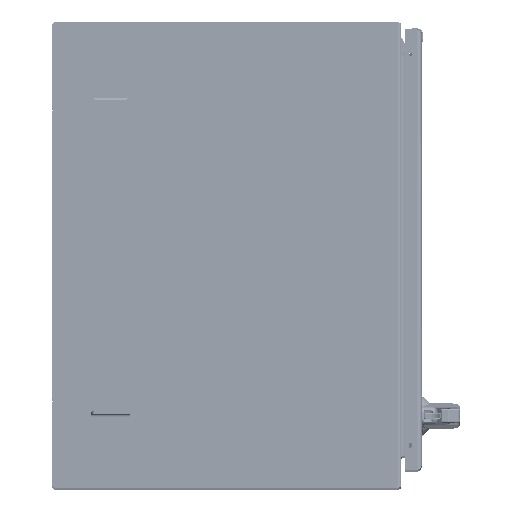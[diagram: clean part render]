
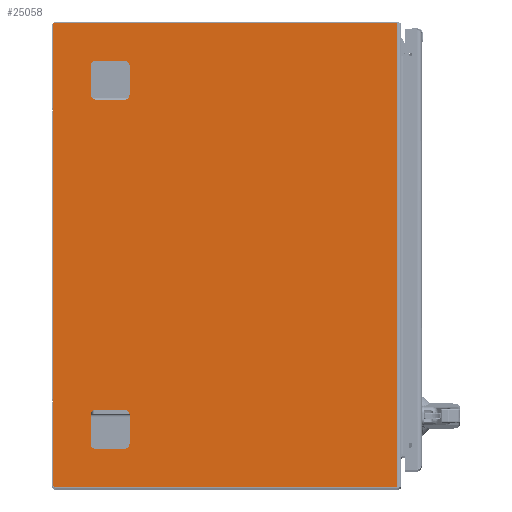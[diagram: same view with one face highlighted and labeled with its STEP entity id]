
A CAD part, top view. The second image highlights one B-rep face of the part: STEP entity #25058.
In plain terms, the highlighted planar face has unit normal (0, 0, 1) as drawn and (0, 1, 0) by its records, which use the part's own axes.
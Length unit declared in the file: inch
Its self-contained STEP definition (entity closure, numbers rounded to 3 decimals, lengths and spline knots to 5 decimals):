
#23817=CARTESIAN_POINT('',(-17.888,0.,-11.888));
#23818=DIRECTION('',(0.,1.,0.));
#23819=DIRECTION('',(0.,0.,-1.));
#23820=AXIS2_PLACEMENT_3D('',#23817,#23818,#23819);
#23825=CARTESIAN_POINT('',(-17.888,0.,11.888));
#23826=DIRECTION('',(0.,1.,0.));
#23827=DIRECTION('',(-1.,0.,0.));
#23828=AXIS2_PLACEMENT_3D('',#23825,#23826,#23827);
#23833=DIRECTION('',(0.,0.,1.));
#23834=VECTOR('',#23833,1.5);
#23835=CARTESIAN_POINT('',(-14.,0.,-9.75));
#23836=LINE('',#23835,#23834);
#23840=CARTESIAN_POINT('',(-14.25,0.,-9.75));
#23841=DIRECTION('',(0.,1.,0.));
#23842=DIRECTION('',(1.,0.,0.));
#23843=AXIS2_PLACEMENT_3D('',#23840,#23841,#23842);
#23848=DIRECTION('',(1.,0.,0.));
#23849=VECTOR('',#23848,1.5);
#23850=CARTESIAN_POINT('',(-15.75,0.,-10.));
#23851=LINE('',#23850,#23849);
#23855=CARTESIAN_POINT('',(-15.75,0.,-9.75));
#23856=DIRECTION('',(0.,1.,0.));
#23857=DIRECTION('',(0.,0.,-1.));
#23858=AXIS2_PLACEMENT_3D('',#23855,#23856,#23857);
#23863=DIRECTION('',(0.,0.,-1.));
#23864=VECTOR('',#23863,1.5);
#23865=CARTESIAN_POINT('',(-16.,0.,-8.25));
#23866=LINE('',#23865,#23864);
#23870=CARTESIAN_POINT('',(-15.75,0.,-8.25));
#23871=DIRECTION('',(0.,1.,0.));
#23872=DIRECTION('',(-1.,0.,0.));
#23873=AXIS2_PLACEMENT_3D('',#23870,#23871,#23872);
#23878=DIRECTION('',(-1.,0.,0.));
#23879=VECTOR('',#23878,1.5);
#23880=CARTESIAN_POINT('',(-14.25,0.,-8.));
#23881=LINE('',#23880,#23879);
#23885=CARTESIAN_POINT('',(-14.25,0.,-8.25));
#23886=DIRECTION('',(0.,1.,0.));
#23887=DIRECTION('',(0.,0.,1.));
#23888=AXIS2_PLACEMENT_3D('',#23885,#23886,#23887);
#23893=DIRECTION('',(0.,0.,1.));
#23894=VECTOR('',#23893,1.5);
#23895=CARTESIAN_POINT('',(-14.,0.,8.25));
#23896=LINE('',#23895,#23894);
#23900=CARTESIAN_POINT('',(-14.25,0.,8.25));
#23901=DIRECTION('',(0.,1.,0.));
#23902=DIRECTION('',(1.,0.,0.));
#23903=AXIS2_PLACEMENT_3D('',#23900,#23901,#23902);
#23908=DIRECTION('',(1.,0.,0.));
#23909=VECTOR('',#23908,1.5);
#23910=CARTESIAN_POINT('',(-15.75,0.,8.));
#23911=LINE('',#23910,#23909);
#23915=CARTESIAN_POINT('',(-15.75,0.,8.25));
#23916=DIRECTION('',(0.,1.,0.));
#23917=DIRECTION('',(0.,0.,-1.));
#23918=AXIS2_PLACEMENT_3D('',#23915,#23916,#23917);
#23923=DIRECTION('',(0.,0.,-1.));
#23924=VECTOR('',#23923,1.5);
#23925=CARTESIAN_POINT('',(-16.,0.,9.75));
#23926=LINE('',#23925,#23924);
#23930=CARTESIAN_POINT('',(-15.75,0.,9.75));
#23931=DIRECTION('',(0.,1.,0.));
#23932=DIRECTION('',(-1.,0.,0.));
#23933=AXIS2_PLACEMENT_3D('',#23930,#23931,#23932);
#23938=DIRECTION('',(-1.,0.,0.));
#23939=VECTOR('',#23938,1.5);
#23940=CARTESIAN_POINT('',(-14.25,0.,10.));
#23941=LINE('',#23940,#23939);
#23945=CARTESIAN_POINT('',(-14.25,0.,9.75));
#23946=DIRECTION('',(0.,1.,0.));
#23947=DIRECTION('',(0.,0.,1.));
#23948=AXIS2_PLACEMENT_3D('',#23945,#23946,#23947);
#23960=DIRECTION('',(0.,0.,-1.));
#23961=VECTOR('',#23960,23.776);
#23962=CARTESIAN_POINT('',(-17.948,0.,11.888));
#23963=LINE('',#23962,#23961);
#23988=DIRECTION('',(-1.,0.,0.));
#23989=VECTOR('',#23988,17.699);
#23990=CARTESIAN_POINT('',(-0.189,0.,11.948));
#23991=LINE('',#23990,#23989);
#24031=DIRECTION('',(0.,0.,1.));
#24032=VECTOR('',#24031,23.896);
#24033=CARTESIAN_POINT('',(-0.189,0.,-11.948));
#24034=LINE('',#24033,#24032);
#24139=DIRECTION('',(-1.,0.,0.));
#24140=VECTOR('',#24139,17.699);
#24141=CARTESIAN_POINT('',(-0.189,0.,-11.948));
#24142=LINE('',#24141,#24140);
#24843=CARTESIAN_POINT('',(-0.189,0.,11.948));
#24844=VERTEX_POINT('',#24843);
#24845=CARTESIAN_POINT('',(-0.189,0.,-11.948));
#24846=VERTEX_POINT('',#24845);
#24871=CARTESIAN_POINT('',(-17.888,0.,-11.948));
#24872=CARTESIAN_POINT('',(-17.948,0.,-11.888));
#24873=VERTEX_POINT('',#24871);
#24874=VERTEX_POINT('',#24872);
#24879=CARTESIAN_POINT('',(-17.948,0.,11.888));
#24880=CARTESIAN_POINT('',(-17.888,0.,11.948));
#24881=VERTEX_POINT('',#24879);
#24882=VERTEX_POINT('',#24880);
#24887=CARTESIAN_POINT('',(-14.,0.,-9.75));
#24888=CARTESIAN_POINT('',(-14.,0.,-8.25));
#24889=VERTEX_POINT('',#24887);
#24890=VERTEX_POINT('',#24888);
#24891=CARTESIAN_POINT('',(-14.25,0.,-8.));
#24892=VERTEX_POINT('',#24891);
#24893=CARTESIAN_POINT('',(-15.75,0.,-8.));
#24894=VERTEX_POINT('',#24893);
#24895=CARTESIAN_POINT('',(-16.,0.,-8.25));
#24896=VERTEX_POINT('',#24895);
#24897=CARTESIAN_POINT('',(-16.,0.,-9.75));
#24898=VERTEX_POINT('',#24897);
#24899=CARTESIAN_POINT('',(-15.75,0.,-10.));
#24900=VERTEX_POINT('',#24899);
#24901=CARTESIAN_POINT('',(-14.25,0.,-10.));
#24902=VERTEX_POINT('',#24901);
#24903=CARTESIAN_POINT('',(-14.,0.,8.25));
#24904=CARTESIAN_POINT('',(-14.,0.,9.75));
#24905=VERTEX_POINT('',#24903);
#24906=VERTEX_POINT('',#24904);
#24907=CARTESIAN_POINT('',(-14.25,0.,10.));
#24908=VERTEX_POINT('',#24907);
#24909=CARTESIAN_POINT('',(-15.75,0.,10.));
#24910=VERTEX_POINT('',#24909);
#24911=CARTESIAN_POINT('',(-16.,0.,9.75));
#24912=VERTEX_POINT('',#24911);
#24913=CARTESIAN_POINT('',(-16.,0.,8.25));
#24914=VERTEX_POINT('',#24913);
#24915=CARTESIAN_POINT('',(-15.75,0.,8.));
#24916=VERTEX_POINT('',#24915);
#24917=CARTESIAN_POINT('',(-14.25,0.,8.));
#24918=VERTEX_POINT('',#24917);
#25003=CARTESIAN_POINT('',(0.,0.,11.948));
#25004=DIRECTION('',(0.,1.,0.));
#25005=DIRECTION('',(-1.,0.,0.));
#25006=AXIS2_PLACEMENT_3D('',#25003,#25004,#25005);
#25007=PLANE('',#25006);
#25009=ORIENTED_EDGE('',*,*,#25008,.F.);
#25011=ORIENTED_EDGE('',*,*,#25010,.F.);
#25013=ORIENTED_EDGE('',*,*,#25012,.T.);
#25015=ORIENTED_EDGE('',*,*,#25014,.T.);
#25017=ORIENTED_EDGE('',*,*,#25016,.F.);
#25019=ORIENTED_EDGE('',*,*,#25018,.T.);
#25020=EDGE_LOOP('',(#25009,#25011,#25013,#25015,#25017,#25019));
#25021=FACE_OUTER_BOUND('',#25020,.F.);
#25023=ORIENTED_EDGE('',*,*,#25022,.F.);
#25025=ORIENTED_EDGE('',*,*,#25024,.T.);
#25027=ORIENTED_EDGE('',*,*,#25026,.F.);
#25029=ORIENTED_EDGE('',*,*,#25028,.T.);
#25031=ORIENTED_EDGE('',*,*,#25030,.F.);
#25033=ORIENTED_EDGE('',*,*,#25032,.T.);
#25035=ORIENTED_EDGE('',*,*,#25034,.F.);
#25037=ORIENTED_EDGE('',*,*,#25036,.T.);
#25038=EDGE_LOOP('',(#25023,#25025,#25027,#25029,#25031,#25033,#25035,#25037));
#25039=FACE_BOUND('',#25038,.F.);
#25041=ORIENTED_EDGE('',*,*,#25040,.F.);
#25043=ORIENTED_EDGE('',*,*,#25042,.T.);
#25045=ORIENTED_EDGE('',*,*,#25044,.F.);
#25047=ORIENTED_EDGE('',*,*,#25046,.T.);
#25049=ORIENTED_EDGE('',*,*,#25048,.F.);
#25051=ORIENTED_EDGE('',*,*,#25050,.T.);
#25053=ORIENTED_EDGE('',*,*,#25052,.F.);
#25055=ORIENTED_EDGE('',*,*,#25054,.T.);
#25056=EDGE_LOOP('',(#25041,#25043,#25045,#25047,#25049,#25051,#25053,#25055));
#25057=FACE_BOUND('',#25056,.F.);
#23821=CIRCLE('',#23820,0.06);
#23829=CIRCLE('',#23828,0.06);
#23844=CIRCLE('',#23843,0.25);
#23859=CIRCLE('',#23858,0.25);
#23874=CIRCLE('',#23873,0.25);
#23889=CIRCLE('',#23888,0.25);
#23904=CIRCLE('',#23903,0.25);
#23919=CIRCLE('',#23918,0.25);
#23934=CIRCLE('',#23933,0.25);
#23949=CIRCLE('',#23948,0.25);
#25008=EDGE_CURVE('',#24873,#24874,#23821,.T.);
#25010=EDGE_CURVE('',#24846,#24873,#24142,.T.);
#25012=EDGE_CURVE('',#24846,#24844,#24034,.T.);
#25014=EDGE_CURVE('',#24844,#24882,#23991,.T.);
#25016=EDGE_CURVE('',#24881,#24882,#23829,.T.);
#25018=EDGE_CURVE('',#24881,#24874,#23963,.T.);
#25022=EDGE_CURVE('',#24889,#24890,#23836,.T.);
#25024=EDGE_CURVE('',#24889,#24902,#23844,.T.);
#25026=EDGE_CURVE('',#24900,#24902,#23851,.T.);
#25028=EDGE_CURVE('',#24900,#24898,#23859,.T.);
#25030=EDGE_CURVE('',#24896,#24898,#23866,.T.);
#25032=EDGE_CURVE('',#24896,#24894,#23874,.T.);
#25034=EDGE_CURVE('',#24892,#24894,#23881,.T.);
#25036=EDGE_CURVE('',#24892,#24890,#23889,.T.);
#25040=EDGE_CURVE('',#24905,#24906,#23896,.T.);
#25042=EDGE_CURVE('',#24905,#24918,#23904,.T.);
#25044=EDGE_CURVE('',#24916,#24918,#23911,.T.);
#25046=EDGE_CURVE('',#24916,#24914,#23919,.T.);
#25048=EDGE_CURVE('',#24912,#24914,#23926,.T.);
#25050=EDGE_CURVE('',#24912,#24910,#23934,.T.);
#25052=EDGE_CURVE('',#24908,#24910,#23941,.T.);
#25054=EDGE_CURVE('',#24908,#24906,#23949,.T.);
#25058=ADVANCED_FACE('',(#25021,#25039,#25057),#25007,.T.);
